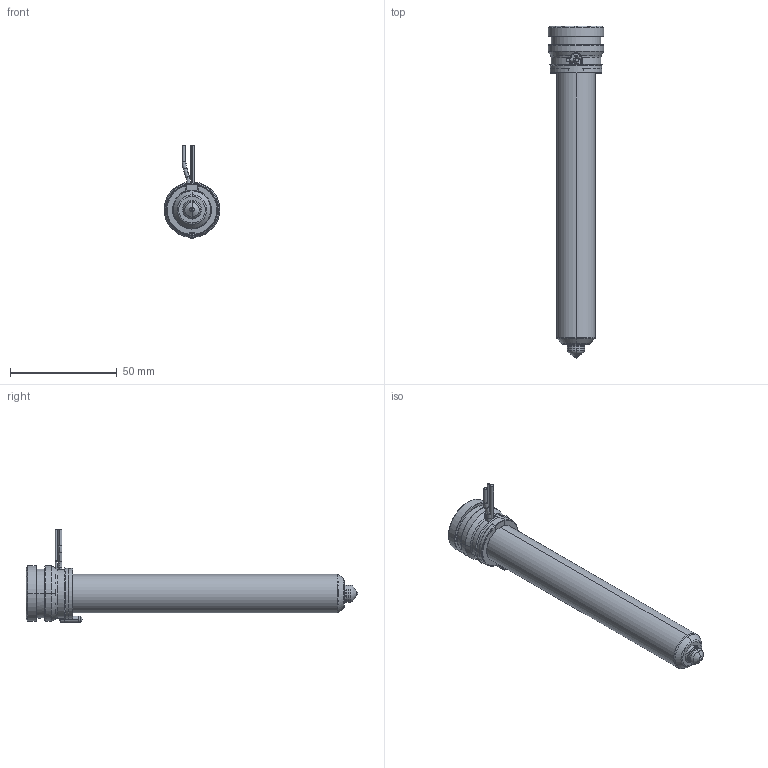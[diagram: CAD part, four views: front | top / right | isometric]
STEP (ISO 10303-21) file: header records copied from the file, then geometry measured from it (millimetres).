
FILE_DESCRIPTION((''),'2;1');
FILE_NAME('MPN-08-24-TX8-136-A','2026-02-05T11:54:58',('UPTIO'),('Thermoplay S.p.A.'),'CREO PARAMETRIC BY PTC INC, 2023494','CREO PARAMETRIC BY PTC INC, 2023494','');
FILE_SCHEMA(('CONFIG_CONTROL_DESIGN','SHAPE_APPEARANCE_LAYERS_GROUPS'));
Length unit declared in the file: millimetre
Products named in the file (1): MPN-08-24-TX8-136-A
Bounding box: 26 x 155.5 x 43.5 mm (x, y, z)
Volume: 29543.7 mm3; surface area: 38091.8 mm2
Topology: 2 solids, 3 shells, 548 faces, 1458 edges, 904 vertices
Faces by surface type: cylinder 180, plane 144, bspline 82, torus 64, cone 60, sphere 12, extrusion 6
Entity records: 29966 total; most frequent: CARTESIAN_POINT 13620, ORIENTED_EDGE 2896, DIRECTION 2574, EDGE_CURVE 1448, AXIS2_PLACEMENT_3D 1006, VERTEX_POINT 904, EDGE_LOOP 576, VECTOR 562
